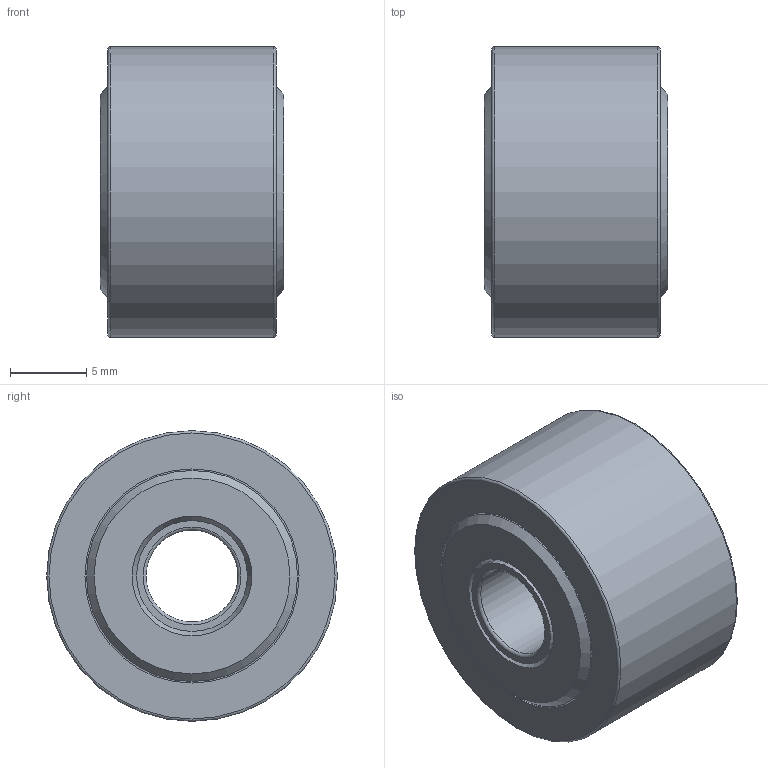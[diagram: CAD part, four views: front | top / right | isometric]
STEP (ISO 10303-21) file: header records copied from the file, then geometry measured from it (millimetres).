
FILE_DESCRIPTION(/* description */ (''),/* implementation_level */ '2;1');
FILE_NAME(/* name */ 'C:\Users\OUREHANEKD\Desktop\Ložiská 3D\MODELY\Ihlove loziska\NATR\NATR--\NATR6.stp',/* time_stamp */ '2016-10-18T14:44:23+02:00',/* author */ ('OUREHANEKD'),/* organization */ (''),/* preprocessor_version */ 'ST-DEVELOPER v15.6',/* originating_system */ 'Autodesk Inventor 2015',/* authorisation */ '');
FILE_SCHEMA (('AUTOMOTIVE_DESIGN { 1 0 10303 214 3 1 1 }'));
Length unit declared in the file: millimetre
Products named in the file (6): NATR6-01; NATR6-02; NATR6-kl; NATR6-needle; NATR6-kr; NATR6
Assembly tree (20 placements, depth 2):
  NATR6
    NATR6-01
    NATR6-02
    NATR6-kl
    NATR6-needle  x16
    NATR6-kr
Bounding box: 12 x 19 x 19 mm (x, y, z)
Volume: 2841.1 mm3; surface area: 3528.4 mm2
Topology: 21 solids, 21 shells, 84 faces, 106 edges, 68 vertices
Faces by surface type: plane 46, cylinder 30, torus 4, cone 4
Full cylindrical faces by diameter (mm): 1.375 x16, 6 x1, 7.25 x4, 8 x1, 8.565 x1, 10.185 x1, 10.75 x1, 13.8 x2, 14 x2, 19 x1
Entity records: 1041 total; most frequent: DIRECTION 206, CARTESIAN_POINT 141, AXIS2_PLACEMENT_3D 103, EDGE_LOOP 76, ORIENTED_EDGE 76, FACE_OUTER_BOUND 39, ADVANCED_FACE 39, CIRCLE 38
